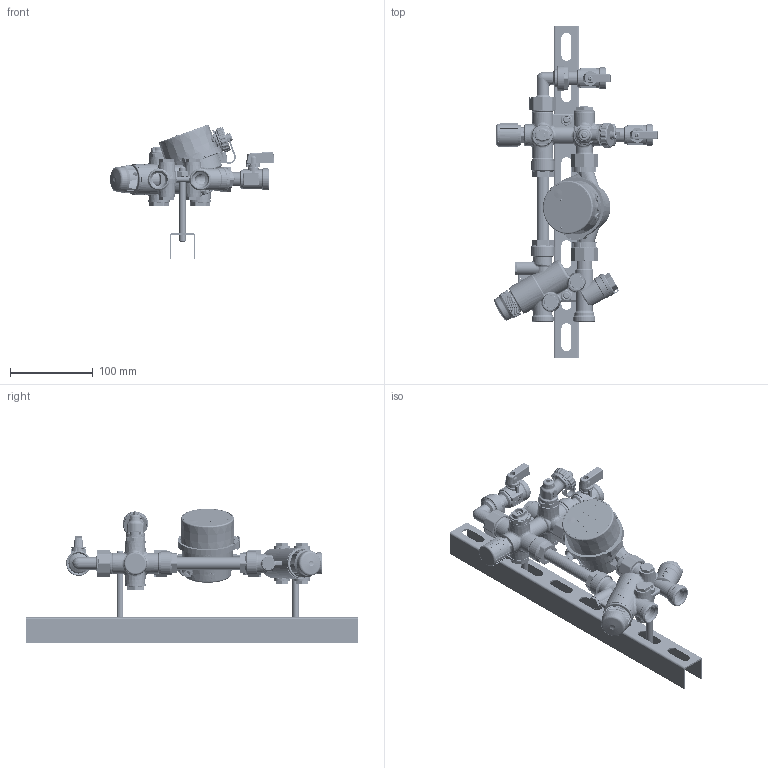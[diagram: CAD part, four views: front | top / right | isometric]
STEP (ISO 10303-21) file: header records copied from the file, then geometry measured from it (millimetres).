
FILE_DESCRIPTION(('STEP AP242'), '1');
FILE_NAME('覆.494726.013.000 捘 - VT.LB.HX.M0', '', ('UNSPECIFIED'), ('UNSPECIFIED'), 'C3D Converter', 'C3D Toolkit', '');
FILE_SCHEMA(('AP242_MANAGED_MODEL_BASED_3D_ENGINEERING_MIM_LF { 1 0 10303 442 1 1 4 }'));
Length unit declared in the file: millimetre
Products named in the file (146): ВР.494726.013.000-02; ВР.494726.013.001 СБ; ВР.494726.012.001 СБ; ВР.494726.002.001.002 СБ; ВР.731371.001; ВР.725140.002; ВР.753125.023; ВР.758421.046; ВР.753612.008; ВР.305319.007.000 СБ; ВР.753125.011; ВР.305319.008.000 СБ; ВР.753125.012; ВР.494726.012.001.001 СБ; ВР.731378.002; ВР.731378.002П; ВР.305319.003.000 СБ; ВР.752513.005; ВР.493619.002.000 СБ; ВР.753191.001; ВР.713161.001; ВР.712221.001; ВР.493619.002.001 СБ; ВР.753157.001; ВР.493619.002.002 СБ; ВР.716623.001; ВР.753512.018; ВР.494726.002.005 СБ; ВР.713791.001; ВР.407223.001.000 СБ; ВР.407223.001.002 СБ; ВР.731464.002; ВР.753182.016; ВР.714411.001; ВР.715113.003; ВР.407223.001.002.002 СБ; ВР.753192.014; ВР.715113.002; ВР.711141.021; ВР.713121.002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
Assembly tree (174 placements, depth 8):
  ВР.494726.013.000-02
    ВР.494726.013.001 СБ
      ВР.494726.012.001 СБ
        ВР.494726.002.001.002 СБ
          ВР.731371.001
          ВР.725140.002
          (unnamed)
            ВР.753125.023
            (unnamed)
          ВР.758421.046
          ВР.753612.008
          ВР.305319.007.000 СБ
            ВР.753125.011
            (unnamed)
          ВР.305319.008.000 СБ  x2
            ВР.753125.012
            (unnamed)
        ВР.494726.012.001.001 СБ
          ВР.731378.002
            ВР.731378.002П
          ВР.758421.046
          ВР.753612.008
          ВР.305319.003.000 СБ
            ВР.752513.005
            (unnamed)
          ВР.493619.002.000 СБ
            ВР.753191.001
            ВР.713161.001
            ВР.712221.001
            (unnamed)
            ВР.493619.002.001 СБ
              ВР.753157.001
              (unnamed)
              (unnamed)
              (unnamed)
            ВР.493619.002.002 СБ
              ВР.716623.001
              (unnamed)
            ВР.753512.018
          ВР.494726.002.005 СБ  x2
            ВР.713791.001
            (unnamed)
        ВР.407223.001.000 СБ
          ВР.407223.001.002 СБ
            ВР.731464.002
            ВР.753182.016
            ВР.714411.001
              ВР.715113.003
            ВР.407223.001.002.002 СБ
              ВР.753192.014
                ВР.715113.002
              ВР.711141.021
              ВР.713121.002
            ВР.711141.022
            ВР.407223.001.002.001 СБ
              ВР.753181.009
              ВР.713141.002
            (unnamed)
            ВР.711141.023
            ВР.711242.002
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Bounding box: 197.44 x 400 x 162.13 mm (x, y, z)
Volume: 501716.5 mm3; surface area: 459140.1 mm2
Topology: 154 solids, 157 shells, 8042 faces, 21123 edges, 13751 vertices
Faces by surface type: plane 3838, cylinder 1622, extrusion 976, cone 705, bspline 457, torus 419, sphere 25
Full cylindrical faces by diameter (mm): 0.4 x4, 0.6 x23, 0.7 x2, 0.8 x12, 1.2 x5, 1.3 x1, 1.5 x5, 1.6 x3, 1.7 x1, 1.9 x1, 2 x5, 2.1 x4, 2.2 x5, 2.3 x3, 2.5 x9, 2.6 x1, 2.7 x2, 2.8 x1, 3 x8, 3.242 x2, 3.4 x5, 3.6 x3, 3.8 x1, 4 x7, 4.134 x1, 4.2 x1, 4.3 x1, 4.5 x3, 4.7 x1, 4.8 x1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
Entity records: 310504 total; most frequent: CARTESIAN_POINT 144459, ORIENTED_EDGE 32886, DIRECTION 28116, EDGE_CURVE 16448, VERTEX_POINT 11193, AXIS2_PLACEMENT_3D 9739, VECTOR 8638, EDGE_LOOP 8363
